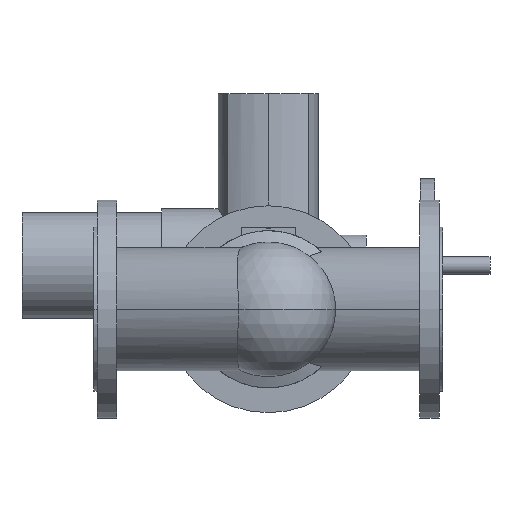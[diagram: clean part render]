
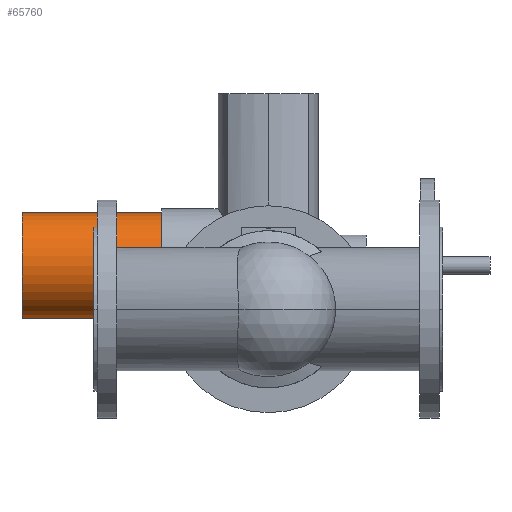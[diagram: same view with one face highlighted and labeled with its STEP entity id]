
A CAD part, front view. The second image highlights one B-rep face of the part: STEP entity #65760.
In plain terms, the highlighted cylindrical face has radius 60.5 mm (diameter 121 mm), a partial arc.
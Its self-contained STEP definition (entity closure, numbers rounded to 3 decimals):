
#65350=CARTESIAN_POINT('',(-2.,520.,50.));
#65360=DIRECTION('',(1.,0.,0.));
#65370=DIRECTION('',(0.,0.,-1.));
#65380=AXIS2_PLACEMENT_3D('',#65350,#65360,#65370);
#65390=CYLINDRICAL_SURFACE('',#65380,60.5);
#65400=CARTESIAN_POINT('',(-2.,520.,110.5));
#65410=DIRECTION('',(1.,0.,0.));
#65420=VECTOR('',#65410,1.);
#65430=LINE('',#65400,#65420);
#65440=CARTESIAN_POINT('',(-82.,520.,110.5));
#65450=VERTEX_POINT('',#65440);
#65460=CARTESIAN_POINT('',(78.,520.,110.5));
#65470=VERTEX_POINT('',#65460);
#65480=EDGE_CURVE('',#65450,#65470,#65430,.T.);
#65490=ORIENTED_EDGE('',*,*,#65480,.F.);
#65500=CARTESIAN_POINT('',(78.,520.,50.));
#65510=DIRECTION('',(-1.,0.,0.));
#65520=DIRECTION('',(0.,0.,-1.));
#65530=AXIS2_PLACEMENT_3D('',#65500,#65510,#65520);
#65540=CIRCLE('',#65530,60.5);
#65550=CARTESIAN_POINT('',(78.,520.,-10.5));
#65560=VERTEX_POINT('',#65550);
#65570=EDGE_CURVE('',#65560,#65470,#65540,.T.);
#65580=ORIENTED_EDGE('',*,*,#65570,.T.);
#65590=CARTESIAN_POINT('',(-2.,520.,-10.5));
#65600=DIRECTION('',(1.,0.,0.));
#65610=VECTOR('',#65600,1.);
#65620=LINE('',#65590,#65610);
#65630=CARTESIAN_POINT('',(-82.,520.,-10.5));
#65640=VERTEX_POINT('',#65630);
#65650=EDGE_CURVE('',#65640,#65560,#65620,.T.);
#65660=ORIENTED_EDGE('',*,*,#65650,.T.);
#65670=CARTESIAN_POINT('',(-82.,520.,50.));
#65680=DIRECTION('',(-1.,0.,0.));
#65690=DIRECTION('',(0.,0.,-1.));
#65700=AXIS2_PLACEMENT_3D('',#65670,#65680,#65690);
#65710=CIRCLE('',#65700,60.5);
#65720=EDGE_CURVE('',#65640,#65450,#65710,.T.);
#65730=ORIENTED_EDGE('',*,*,#65720,.F.);
#65740=EDGE_LOOP('',(#65730,#65660,#65580,#65490));
#65750=FACE_OUTER_BOUND('',#65740,.T.);
#65760=ADVANCED_FACE('',(#65750),#65390,.T.);
